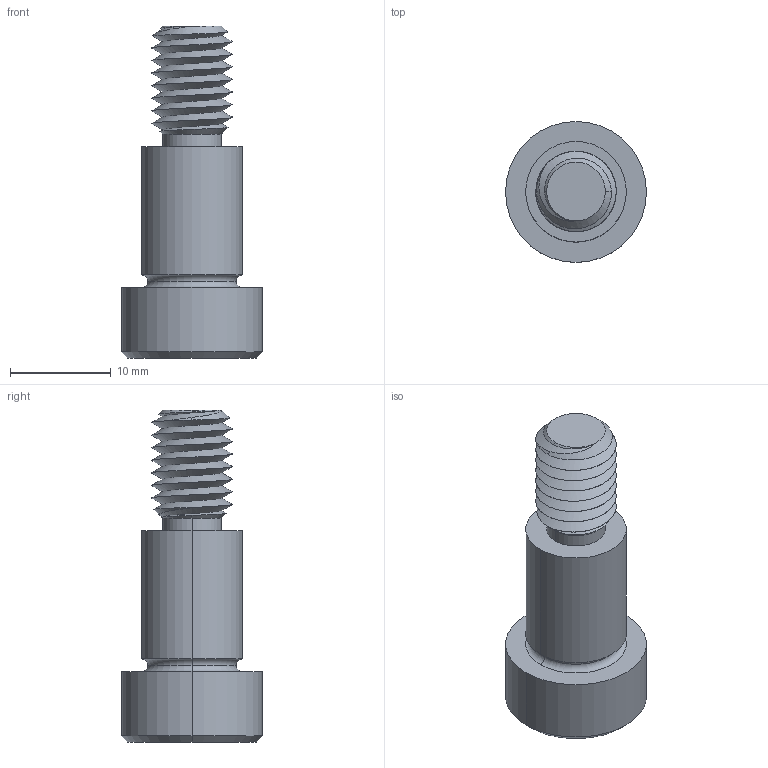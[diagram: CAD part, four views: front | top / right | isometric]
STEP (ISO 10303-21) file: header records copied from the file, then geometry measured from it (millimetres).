
FILE_DESCRIPTION (( 'STEP AP203' ), '1' );
FILE_NAME ('P0130.100-014-B8.step', '2021-11-09T21:51:04', ( '' ), ( '' ), 'SwSTEP 2.0', 'SolidWorks 2019', '' );
FILE_SCHEMA (( 'CONFIG_CONTROL_DESIGN' ));
Length unit declared in the file: millimetre
Products named in the file (1): P0130.100-014-B8
Bounding box: 14 x 14 x 33 mm (x, y, z)
Volume: 2467.5 mm3; surface area: 1618 mm2
Topology: 1 solids, 1 shells, 58 faces, 136 edges, 81 vertices
Faces by surface type: cylinder 20, cone 16, plane 16, torus 4, bspline 2
Entity records: 4248 total; most frequent: CARTESIAN_POINT 2944, ORIENTED_EDGE 268, DIRECTION 241, EDGE_CURVE 134, AXIS2_PLACEMENT_3D 97, VERTEX_POINT 81, EDGE_LOOP 61, ADVANCED_FACE 58
